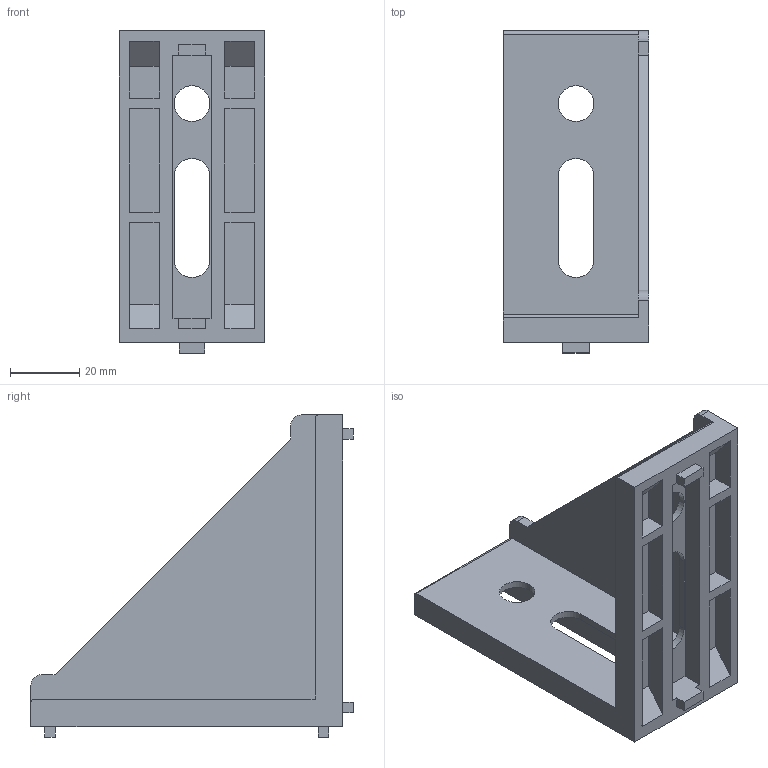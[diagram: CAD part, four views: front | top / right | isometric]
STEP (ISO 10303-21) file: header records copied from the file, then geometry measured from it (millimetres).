
FILE_DESCRIPTION (( 'STEP AP203' ), '1' );
FILE_NAME ('LIMA-GE45X90.STEP', '2018-03-15T12:46:02', ( '' ), ( '' ), 'SwSTEP 2.0', 'SolidWorks 2013', '' );
FILE_SCHEMA (( 'CONFIG_CONTROL_DESIGN' ));
Length unit declared in the file: millimetre
Products named in the file (1): LIMA-GE45X90
Bounding box: 42 x 93 x 93 mm (x, y, z)
Volume: 42333.6 mm3; surface area: 29980.7 mm2
Topology: 1 solids, 1 shells, 115 faces, 297 edges, 198 vertices
Faces by surface type: plane 102, cylinder 13
Entity records: 3550 total; most frequent: CARTESIAN_POINT 611, ORIENTED_EDGE 594, DIRECTION 555, EDGE_CURVE 297, VECTOR 271, LINE 271, VERTEX_POINT 198, AXIS2_PLACEMENT_3D 142
